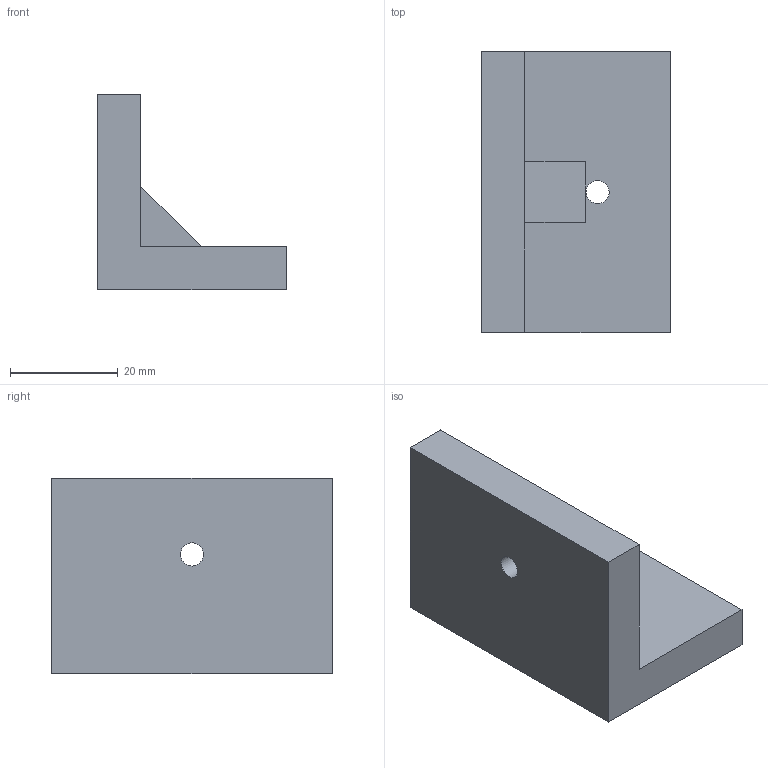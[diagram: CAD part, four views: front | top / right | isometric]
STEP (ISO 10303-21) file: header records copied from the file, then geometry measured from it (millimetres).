
FILE_DESCRIPTION(('Mechanical CAD reference from nasji.com'),'2;1');
FILE_NAME('NASJI.step','',(''),(''),'','NASJI distribution','');
FILE_SCHEMA(('AUTOMOTIVE_DESIGN { 1 0 10303 214 1 1 1 1 }'));
Length unit declared in the file: millimetre
Products named in the file (1): Open CASCADE STEP translator 7.8 159
Bounding box: 35 x 52.09 x 36.3 mm (x, y, z)
Volume: 26861.1 mm3; surface area: 8651 mm2
Topology: 1 solids, 1 shells, 13 faces, 33 edges, 22 vertices
Faces by surface type: plane 11, cylinder 2
Full cylindrical faces by diameter (mm): 4.3 x2
Entity records: 840 total; most frequent: CARTESIAN_POINT 151, DIRECTION 125, LINE 87, VECTOR 87, ORIENTED_EDGE 66, PCURVE 66, DEFINITIONAL_REPRESENTATION 66, EDGE_CURVE 33
